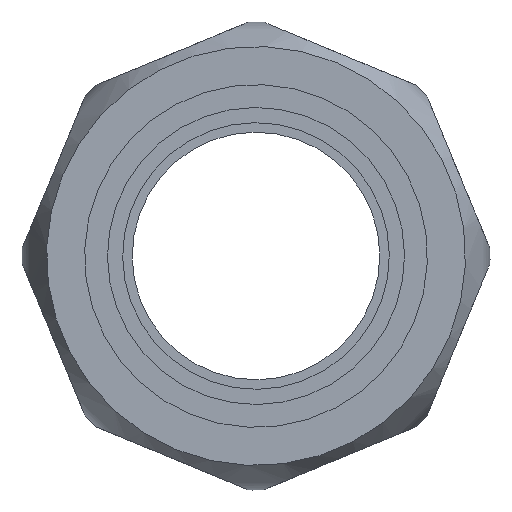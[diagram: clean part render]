
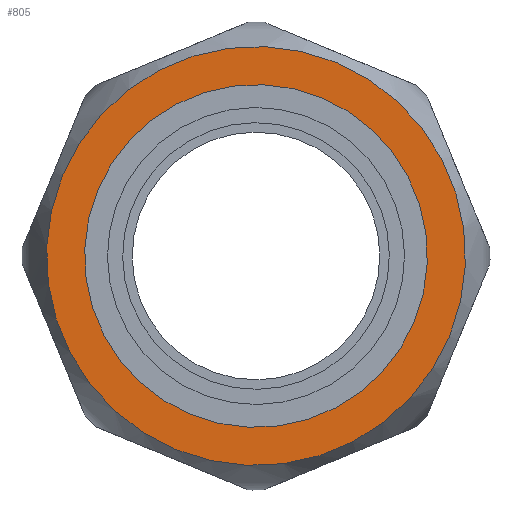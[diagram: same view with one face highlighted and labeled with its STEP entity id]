
A CAD part, left-side view. The second image highlights one B-rep face of the part: STEP entity #805.
In plain terms, the highlighted planar face has unit normal (-1, 0, 0).
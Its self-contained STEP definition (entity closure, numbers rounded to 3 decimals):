
#92=FACE_BOUND('',#210,.T.);
#113=PLANE('',#977);
#146=FACE_OUTER_BOUND('',#209,.T.);
#209=EDGE_LOOP('',(#613));
#210=EDGE_LOOP('',(#614));
#345=CIRCLE('',#972,22.);
#347=CIRCLE('',#976,18.);
#403=VERTEX_POINT('',#1921);
#405=VERTEX_POINT('',#1930);
#481=EDGE_CURVE('',#403,#403,#345,.T.);
#484=EDGE_CURVE('',#405,#405,#347,.T.);
#613=ORIENTED_EDGE('',*,*,#481,.F.);
#614=ORIENTED_EDGE('',*,*,#484,.T.);
#805=ADVANCED_FACE('',(#146,#92),#113,.T.);
#972=AXIS2_PLACEMENT_3D('',#1925,#1103,#1104);
#976=AXIS2_PLACEMENT_3D('',#1932,#1112,#1113);
#977=AXIS2_PLACEMENT_3D('',#1933,#1114,#1115);
#1103=DIRECTION('center_axis',(1.,0.,0.));
#1104=DIRECTION('ref_axis',(0.,1.,0.));
#1112=DIRECTION('center_axis',(1.,0.,0.));
#1113=DIRECTION('ref_axis',(0.,1.,0.));
#1114=DIRECTION('center_axis',(-1.,0.,0.));
#1115=DIRECTION('ref_axis',(0.,0.,1.));
#1921=CARTESIAN_POINT('',(0.,0.,22.));
#1925=CARTESIAN_POINT('Origin',(0.,0.,0.));
#1930=CARTESIAN_POINT('',(0.,-18.,0.));
#1932=CARTESIAN_POINT('Origin',(0.,0.,0.));
#1933=CARTESIAN_POINT('Origin',(0.,20.,0.));
